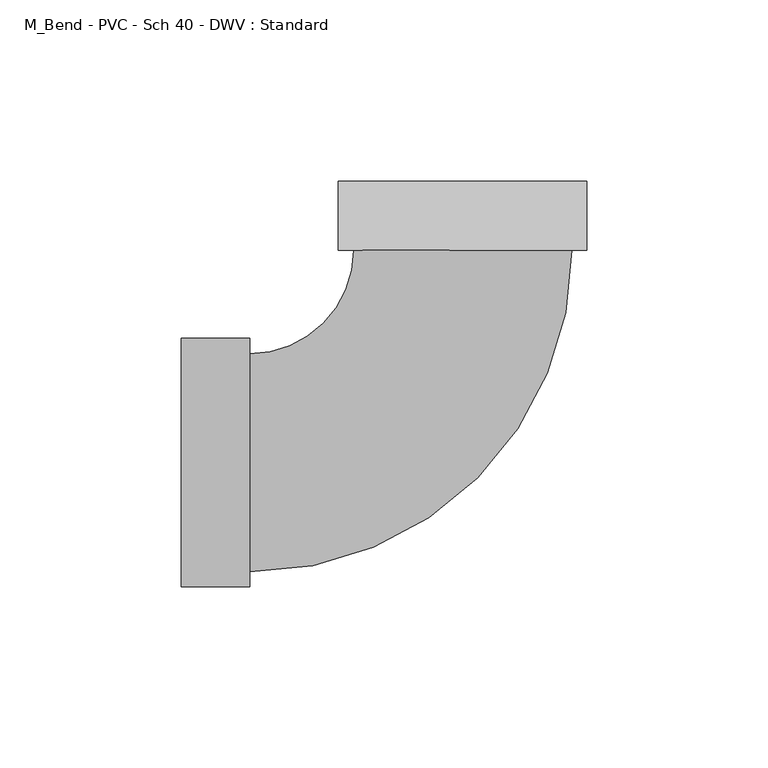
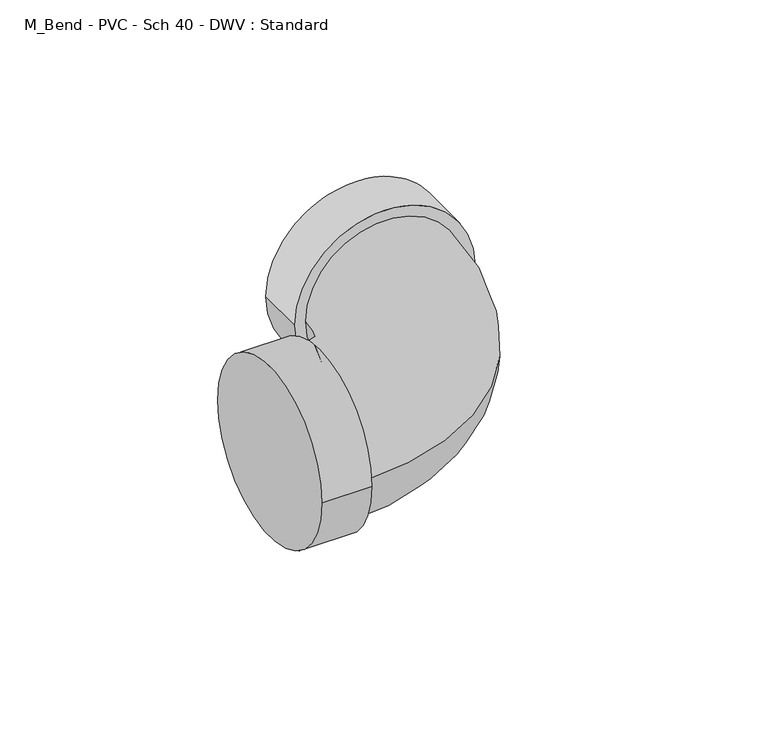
"""IFC4 building model written with IfcOpenShell, lengths in millimetres: pipe fitting geometry, M_Bend - PVC - Sch 40 - DWV : Standard."""

from ifc_helpers import new_model, si_unit, point, frame, origin, place, context, project, spatial, circle_curve, ellipse_curve, trimmed, source, transform, mapped, element, save
from ifc_brep_helpers import plane_surface, cylinder_surface, revolved_surface, advanced_brep


def m_bend_pvc_sch_40_dwv_standard_ec028db0(model_context):
    return source(origin(), model_context, "Body", "AdvancedBrep", [
        advanced_brep(
        [(-77.8002, -34.3154, 0.0), (-77.8002, 34.3154, 0.0), (-58.7502, -34.3154, 0.0), (-58.7502, 34.3154, 0.0), (-58.7502, -30.1625, 0.0), (-58.7502, 30.1625, 0.0), (-30.156626, 58.7532154, 0.0), (30.1683737, 58.747184, 0.0), (34.3212737, 58.7467688, 0.0), (-34.309526, 58.7536306, 0.0), (34.3231783, 77.7967687, 0.0), (-34.3076213, 77.8036305, 0.0)],
        [
            (0, 1, circle_curve(frame((-77.8002, 0.0, 0.0), z_axis=(-1.0, 0.0, 0.0), x_axis=(0.0, 1.0, 0.0)), 34.3154)),
            (1, 0, circle_curve(frame((-77.8002, 0.0, 0.0), z_axis=(-1.0, 0.0, 0.0), x_axis=(0.0, 1.0, 0.0)), 34.3154)),
            (2, 3, circle_curve(frame((-58.7502, 0.0, 0.0), z_axis=(1.0, 0.0, 0.0), x_axis=(0.0, 1.0, 0.0)), 34.3154)),
            (3, 2, circle_curve(frame((-58.7502, 0.0, 0.0), z_axis=(1.0, 0.0, 0.0), x_axis=(0.0, 1.0, 0.0)), 34.3154)),
            (4, 5, circle_curve(frame((-58.7502, 0.0, 0.0), z_axis=(-1.0, 0.0, 0.0), x_axis=(0.0, 1.0, 0.0)), 30.1625)),
            (5, 4, circle_curve(frame((-58.7502, 0.0, 0.0), z_axis=(-1.0, 0.0, 0.0), x_axis=(0.0, 1.0, 0.0)), 30.1625)),
            (0, 2),
            (3, 1),
            (6, 5, circle_curve(frame((-58.7502, 58.7560742, 0.0), z_axis=(0.0, 0.0, -1.0), x_axis=(0.0, -1.0, 0.0)), 28.5935742)),
            (4, 7, circle_curve(frame((-58.7502, 58.7560742, 0.0), z_axis=(0.0, 0.0, 1.0), x_axis=(0.0, -1.0, 0.0)), 88.9185742)),
            (7, 6, circle_curve(frame((0.0058739, 58.7501997, 0.0), z_axis=(-9.99804294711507e-05, -0.9999999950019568, 0.0), x_axis=(-0.9999999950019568, 9.99804294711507e-05, 0.0)), 30.1625)),
            (6, 7, circle_curve(frame((0.0058739, 58.7501997, 0.0), z_axis=(-9.99804294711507e-05, -0.9999999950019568, 0.0), x_axis=(-0.9999999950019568, 9.99804294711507e-05, 0.0)), 30.1625)),
            (8, 9, circle_curve(frame((0.0058739, 58.7501997, 0.0), z_axis=(-9.99804294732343e-05, -0.9999999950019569, 0.0), x_axis=(-0.9999999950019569, 9.99804294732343e-05, 0.0)), 34.3154)),
            (9, 8, circle_curve(frame((0.0058739, 58.7501997, 0.0), z_axis=(-9.99804294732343e-05, -0.9999999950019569, 0.0), x_axis=(-0.9999999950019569, 9.99804294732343e-05, 0.0)), 34.3154)),
            (10, 11, circle_curve(frame((0.0077785, 77.8001996, 0.0), z_axis=(9.99804294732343e-05, 0.9999999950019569, 0.0), x_axis=(-0.9999999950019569, 9.99804294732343e-05, 0.0)), 34.3154)),
            (11, 10, circle_curve(frame((0.0077785, 77.8001996, 0.0), z_axis=(9.99804294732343e-05, 0.9999999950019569, 0.0), x_axis=(-0.9999999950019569, 9.99804294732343e-05, 0.0)), 34.3154)),
            (8, 10),
            (11, 9),
        ],
        [
            plane_surface(frame((-77.8002, 0.0, 0.0), z_axis=(-1.0, 0.0, 0.0), x_axis=(0.0, 0.0, 1.0))),
            plane_surface(frame((-58.7502, 0.0, 0.0), z_axis=(1.0, 0.0, 0.0), x_axis=(0.0, 0.0, 1.0))),
            cylinder_surface(frame((-77.8002, 0.0, 0.0), z_axis=(-1.0, 0.0, 0.0), x_axis=(0.0, 1.0, 0.0)), 34.3154),
            revolved_surface(trimmed(ellipse_curve(frame((-58.7502, 0.0, 0.0), z_axis=(-1.0, 0.0, 0.0), x_axis=(0.0, 1.0, 0.0)), 30.1625, 30.1625), [point((-58.7502, -30.1625, 0.0))], [point((-58.7502, 30.1625, 0.0))], True, "CARTESIAN"), (-58.7502, 58.7560742, 0.0), (0.0, 0.0, 1.0)),
            revolved_surface(trimmed(ellipse_curve(frame((-58.7502, 0.0, 0.0), z_axis=(-1.0, 0.0, 0.0), x_axis=(0.0, 1.0, 0.0)), 30.1625, 30.1625), [point((-58.7502, 30.1625, 0.0))], [point((-58.7502, -30.1625, 0.0))], True, "CARTESIAN"), (-58.7502, 58.7560742, 0.0), (0.0, 0.0, 1.0)),
            plane_surface(frame((0.0058739, 58.7501997, 0.0), z_axis=(-9.99804294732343e-05, -0.9999999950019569, 0.0), x_axis=(0.0, 0.0, 1.0))),
            plane_surface(frame((0.0077785, 77.8001996, 0.0), z_axis=(9.99804294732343e-05, 0.9999999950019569, 0.0), x_axis=(0.0, 0.0, 1.0))),
            cylinder_surface(frame((0.0058739, 58.7501997, 0.0), z_axis=(-9.99804294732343e-05, -0.9999999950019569, 0.0), x_axis=(-0.9999999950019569, 9.99804294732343e-05, 0.0)), 34.3154),
        ],
        [
            (0, [[1, 2]]),
            (1, [[3, 4], [5, 6]]),
            (2, [[-1, 7, -4, 8]]),
            (2, [[-2, -8, -3, -7]]),
            (3, [[9, -5, 10, 11]]),
            (4, [[-9, 12, -10, -6]]),
            (5, [[13, 14], [-11, -12]]),
            (6, [[15, 16]]),
            (7, [[-13, 17, -16, 18]]),
            (7, [[-14, -18, -15, -17]]),
        ],
    ),
    ])


if __name__ == "__main__":
    model = new_model("IFC4")
    model_context = context("Model", 3, world=origin())
    ifc_project = project(units=[si_unit("LENGTHUNIT", "METRE", prefix="MILLI")], contexts=[model_context])
    site = spatial("IfcSite", under=ifc_project)
    building = spatial("IfcBuilding", under=site)
    placement = place(None, origin())
    m_bend_pvc_sch_40_dwv_standard_shape = m_bend_pvc_sch_40_dwv_standard_ec028db0(model_context)
    element("IfcPipeFitting", 1, ObjectType="M_Bend - PVC - Sch 40 - DWV : Standard", at=placement, inside=building, context=model_context, shape_type="MappedRepresentation", body=[
        mapped(m_bend_pvc_sch_40_dwv_standard_shape, transform((0.0, 0.0, 0.0), x_axis=(1.0, 0.0, 0.0), y_axis=(0.0, 1.0, 0.0), z_axis=(0.0, 0.0, 1.0))),
    ])
    save(model, "model.ifc")
